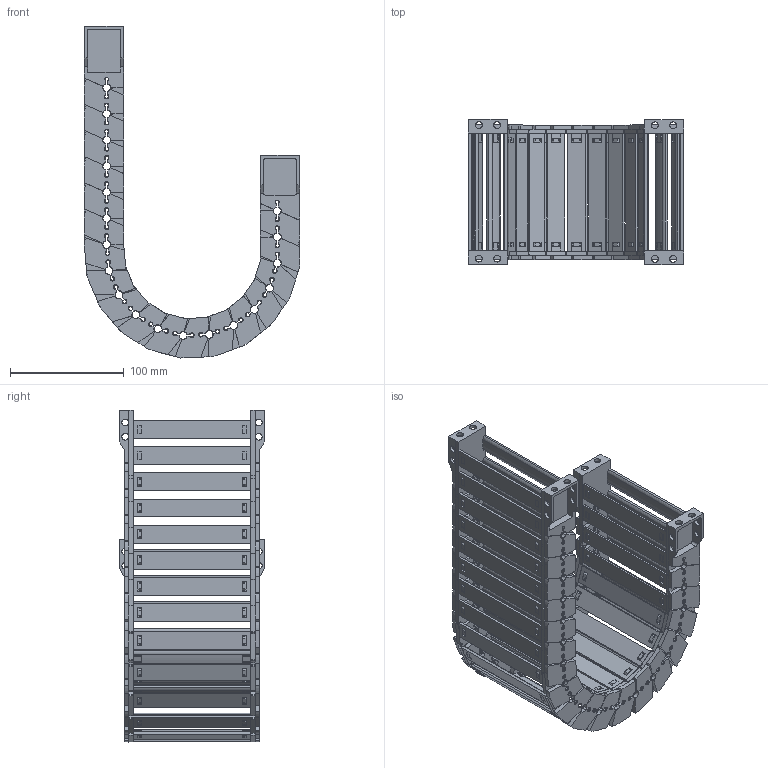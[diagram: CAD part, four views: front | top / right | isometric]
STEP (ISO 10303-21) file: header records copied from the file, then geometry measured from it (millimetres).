
FILE_DESCRIPTION(/* description */ (''),/* implementation_level */ '2;1');
FILE_NAME(/* name */ 'JY28-103-R75.stp',/* time_stamp */ '2026-06-03T16:05:58+08:00',/* author */ (''),/* organization */ (''),/* preprocessor_version */ 'ST-DEVELOPER v19.4',/* originating_system */ 'SIEMENS PLM Software NX2306.5001',/* authorisation */ '');
FILE_SCHEMA (('AP203_CONFIGURATION_CONTROLLED_3D_DESIGN_OF_MECHANICAL_PARTS_AND_ASSEMBLIES_MIM_LF { 1 0 10303 403 2 1 2}'));
Products named in the file (1): 简化图纸_objects
Bounding box: 189.55 x 127.5 x 292.17 mm (x, y, z)
Volume: 445122.2 mm3; surface area: 322031.1 mm2
Topology: 74 solids, 74 shells, 6194 faces, 17618 edges, 11518 vertices
Faces by surface type: plane 4058, cone 1120, cylinder 978, bspline 36, torus 2
Full cylindrical faces by diameter (mm): 6 x24
Entity records: 209461 total; most frequent: CARTESIAN_POINT 46487, ORIENTED_EDGE 35144, DIRECTION 33002, EDGE_CURVE 17572, LINE 11632, VECTOR 11632, VERTEX_POINT 11496, AXIS2_PLACEMENT_3D 10685
